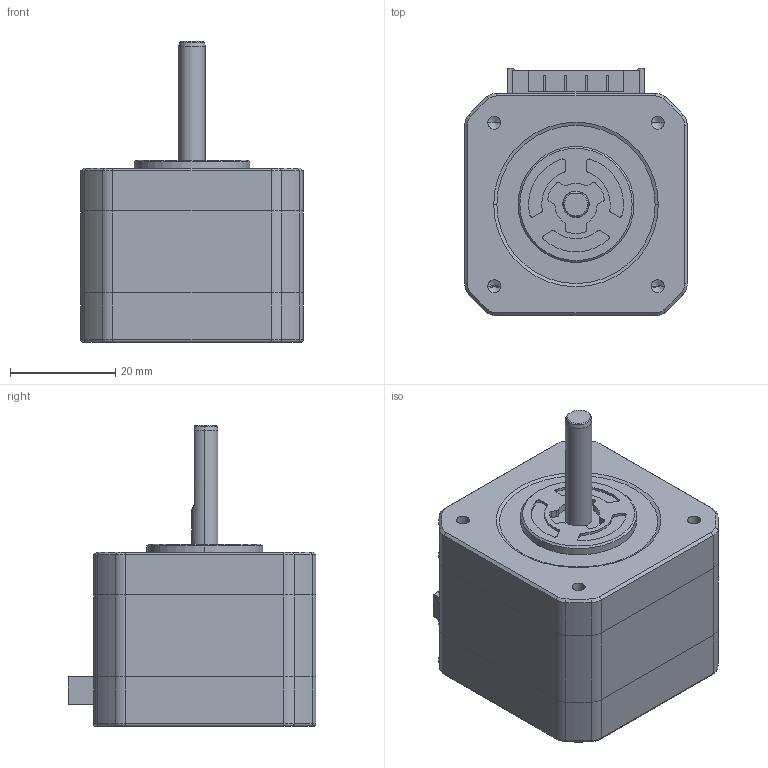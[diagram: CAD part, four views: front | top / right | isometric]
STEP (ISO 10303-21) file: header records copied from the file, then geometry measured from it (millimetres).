
FILE_DESCRIPTION (( 'STEP AP203' ), '1' );
FILE_NAME ('SF2421-12U41.STEP', '2019-08-08T09:54:16', ( 'sanyodenki-admin' ), ( '' ), 'SwSTEP 2.0', 'SolidWorks 2017', '' );
FILE_SCHEMA (( 'CONFIG_CONTROL_DESIGN' ));
Length unit declared in the file: millimetre
Products named in the file (1): SF2421-12U41
Bounding box: 42.15 x 46.98 x 57.1 mm (x, y, z)
Volume: 57310.2 mm3; surface area: 18306.2 mm2
Topology: 11 solids, 11 shells, 445 faces, 1120 edges, 710 vertices
Faces by surface type: plane 196, cylinder 181, cone 46, torus 14, bspline 8
Entity records: 13485 total; most frequent: CARTESIAN_POINT 2518, DIRECTION 2384, ORIENTED_EDGE 2212, EDGE_CURVE 1106, AXIS2_PLACEMENT_3D 858, VERTEX_POINT 710, VECTOR 668, LINE 668
